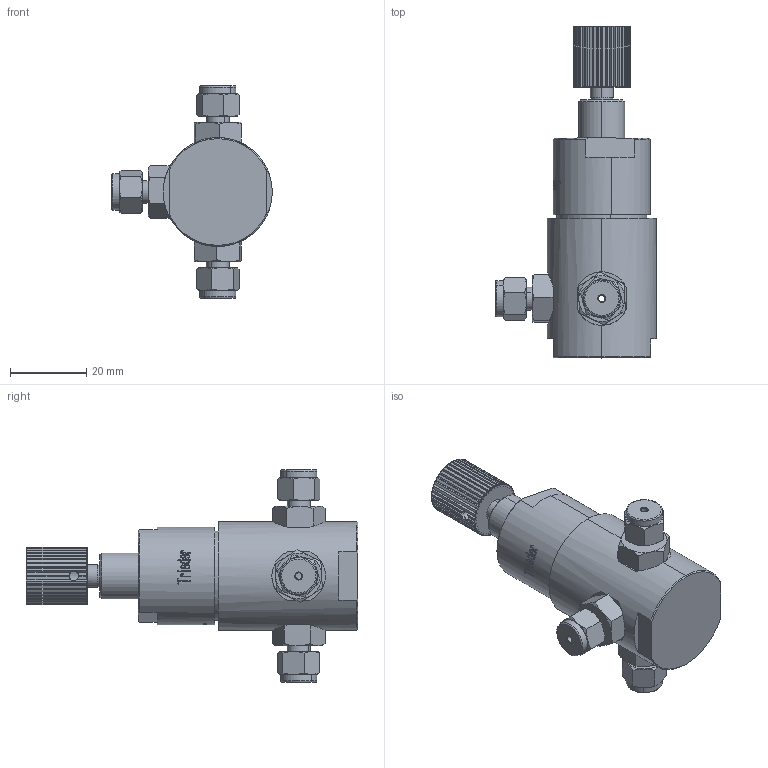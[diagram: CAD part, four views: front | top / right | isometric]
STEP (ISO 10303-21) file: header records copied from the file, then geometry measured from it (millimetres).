
FILE_DESCRIPTION (( 'STEP AP203' ), '1' );
FILE_NAME ('JTF-1-笚晚珨輛謗堤ZZT.STEP', '2023-03-24T06:18:20', ( '' ), ( '' ), 'SwSTEP 2.0', 'SolidWorks 2016', '' );
FILE_SCHEMA (( 'CONFIG_CONTROL_DESIGN' ));
Length unit declared in the file: millimetre
Products named in the file (1): JTF-1-笚晚珨輛謗堤ZZT
Bounding box: 42 x 86.8 x 55.5 mm (x, y, z)
Surface area: 11265.9 mm2 (no closed solid volume)
Topology: 0 solids, 13 shells, 438 faces, 1375 edges, 951 vertices
Faces by surface type: plane 158, cylinder 95, torus 86, cone 71, bspline 28
Entity records: 22729 total; most frequent: CARTESIAN_POINT 11457, ORIENTED_EDGE 2456, DIRECTION 1993, EDGE_CURVE 1375, VERTEX_POINT 951, AXIS2_PLACEMENT_3D 776, B_SPLINE_CURVE_WITH_KNOTS 559, EDGE_LOOP 473
